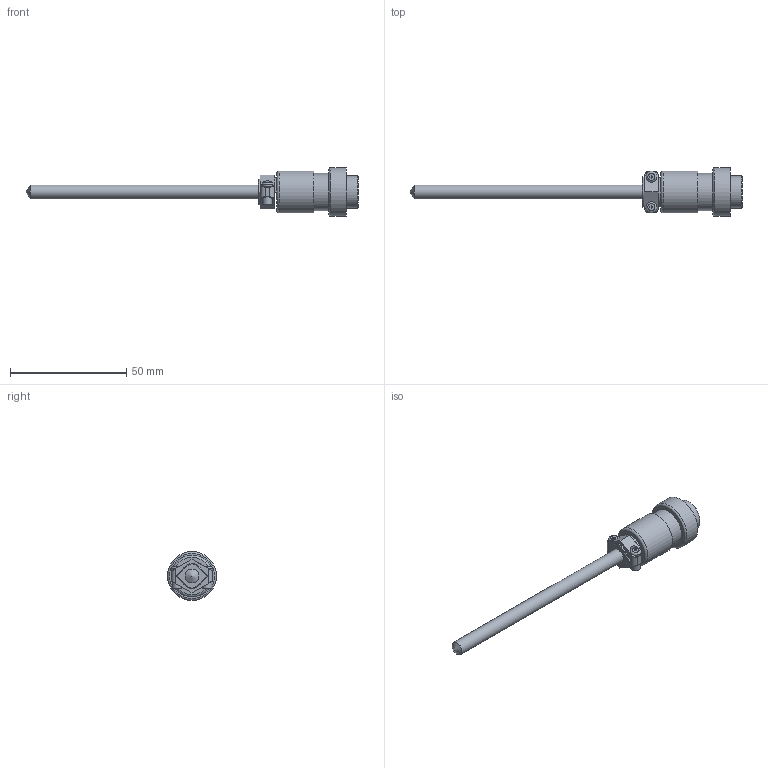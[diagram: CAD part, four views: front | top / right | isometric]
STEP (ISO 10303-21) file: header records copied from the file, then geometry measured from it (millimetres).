
FILE_DESCRIPTION (( 'STEP AP203' ), '1' );
FILE_NAME ('YIT90-5(0).step', '2025-05-28T07:15:16', ( '' ), ( '' ), 'SwSTEP 2.0', 'SolidWorks 2021', '' );
FILE_SCHEMA (( 'CONFIG_CONTROL_DESIGN' ));
Length unit declared in the file: millimetre
Products named in the file (1): YIT90-5(0)
Bounding box: 143 x 21 x 21 mm (x, y, z)
Volume: 11096.1 mm3; surface area: 6633.6 mm2
Topology: 4 solids, 4 shells, 82 faces, 194 edges, 127 vertices
Faces by surface type: plane 50, cylinder 20, torus 4, bspline 4, cone 2, sphere 2
Full cylindrical faces by diameter (mm): 2.5 x1, 3 x1, 4 x2, 4.7 x2, 4.8 x2, 6 x1, 13.5 x1, 14 x1, 16 x2, 18 x1, 21 x1
Entity records: 2381 total; most frequent: CARTESIAN_POINT 615, DIRECTION 328, ORIENTED_EDGE 316, EDGE_CURVE 158, EDGE_LOOP 118, VERTEX_POINT 116, AXIS2_PLACEMENT_3D 113, VECTOR 102
